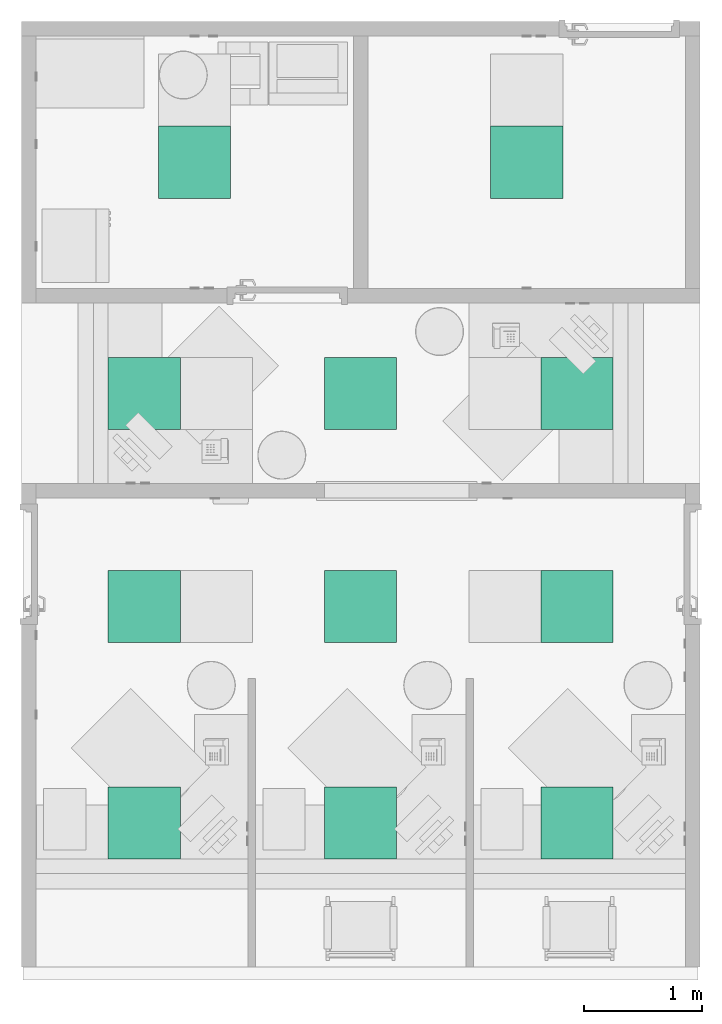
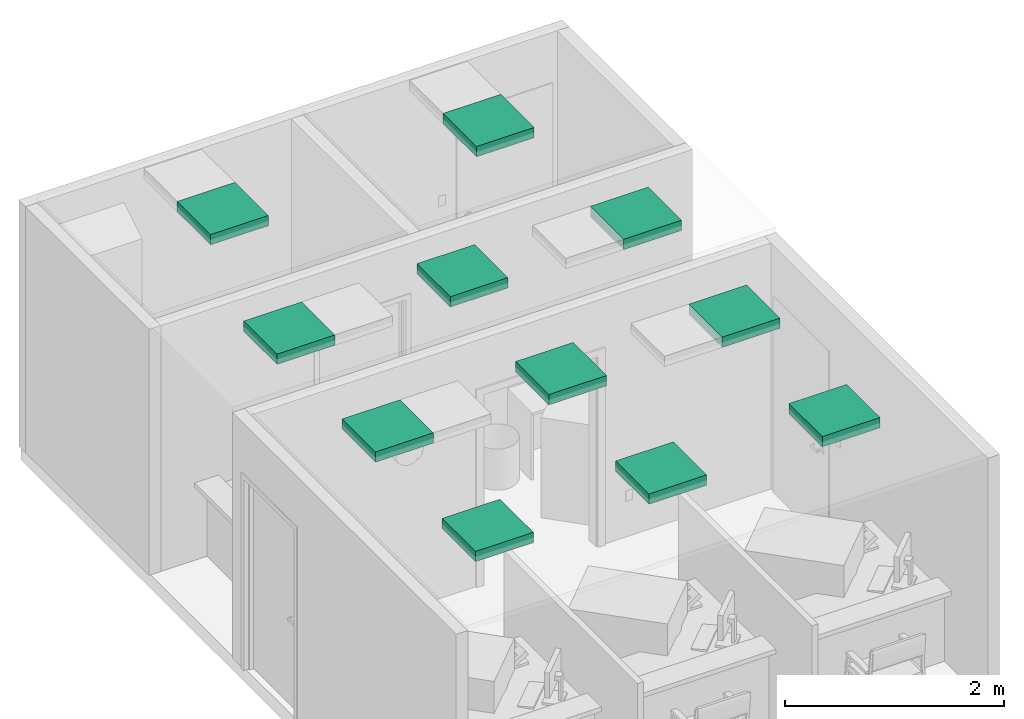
# One storey, part 6 of 20: 11 flow terminals.
"""IFC2X3 building model written with IfcOpenShell, lengths in feet."""

from ifc_helpers import new_model, entity, si_unit, converted_unit, derived_unit, direction, frame, origin, origin_2d_with_axis, place, context, subcontext, project, spatial, rectangle, extrude, source, transform, mapped, type_object, type_shapes, element, save


model = new_model("IFC2X3")

# Units and contexts
model_context = context("Model", 3, precision=0.0001, world=origin(), true_north=direction((6.12303176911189e-17, 1.0)))
body_context = subcontext(model_context, "Body", "Model", "MODEL_VIEW")
ifc_project = project(units=[converted_unit("LENGTHUNIT", "FOOT", entity("IfcRatioMeasure", 0.3048), si_unit("LENGTHUNIT", "METRE"), dimensions=[1, 0, 0, 0, 0, 0, 0]), converted_unit("AREAUNIT", "SQUARE FOOT", entity("IfcRatioMeasure", 0.09290304), si_unit("AREAUNIT", "SQUARE_METRE"), dimensions=[2, 0, 0, 0, 0, 0, 0]), converted_unit("VOLUMEUNIT", "CUBIC FOOT", entity("IfcRatioMeasure", 0.028316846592), si_unit("VOLUMEUNIT", "CUBIC_METRE"), dimensions=[3, 0, 0, 0, 0, 0, 0]), converted_unit("PLANEANGLEUNIT", "DEGREE", entity("IfcRatioMeasure", 0.0174532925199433), si_unit("PLANEANGLEUNIT", "RADIAN"), dimensions=[0, 0, 0, 0, 0, 0, 0]), si_unit("MASSUNIT", "GRAM", prefix="KILO"), derived_unit("MASSDENSITYUNIT", [(si_unit("MASSUNIT", "GRAM", prefix="KILO"), 1), (si_unit("LENGTHUNIT", "METRE"), -3)]), si_unit("TIMEUNIT", "SECOND"), si_unit("FREQUENCYUNIT", "HERTZ"), si_unit("THERMODYNAMICTEMPERATUREUNIT", "DEGREE_CELSIUS"), derived_unit("THERMALTRANSMITTANCEUNIT", [(si_unit("MASSUNIT", "GRAM", prefix="KILO"), 1), (si_unit("THERMODYNAMICTEMPERATUREUNIT", "KELVIN"), -1), (si_unit("TIMEUNIT", "SECOND"), -3)]), derived_unit("VOLUMETRICFLOWRATEUNIT", [(si_unit("LENGTHUNIT", "METRE"), 3), (si_unit("TIMEUNIT", "SECOND"), -1)]), si_unit("ELECTRICCURRENTUNIT", "AMPERE"), si_unit("ELECTRICVOLTAGEUNIT", "VOLT"), si_unit("POWERUNIT", "WATT"), si_unit("FORCEUNIT", "NEWTON"), si_unit("ILLUMINANCEUNIT", "LUX"), si_unit("LUMINOUSFLUXUNIT", "LUMEN"), si_unit("LUMINOUSINTENSITYUNIT", "CANDELA"), derived_unit("USERDEFINED", [(si_unit("MASSUNIT", "GRAM", prefix="KILO"), -1), (si_unit("LENGTHUNIT", "METRE"), -2), (si_unit("TIMEUNIT", "SECOND"), 3), (si_unit("LUMINOUSFLUXUNIT", "LUMEN"), 1)]), derived_unit("LINEARVELOCITYUNIT", [(si_unit("LENGTHUNIT", "METRE"), 1), (si_unit("TIMEUNIT", "SECOND"), -1)]), si_unit("PRESSUREUNIT", "PASCAL"), derived_unit("USERDEFINED", [(si_unit("LENGTHUNIT", "METRE"), -2), (si_unit("MASSUNIT", "GRAM", prefix="KILO"), 1), (si_unit("TIMEUNIT", "SECOND"), -2)])], contexts=[model_context])

# Site, building, storey, space
site_placement = place(None, origin())
site = spatial("IfcSite", under=ifc_project, at=site_placement, Name="Default", CompositionType="ELEMENT")
building_placement = place(site_placement, origin())
building = spatial("IfcBuilding", under=site, at=building_placement, Name="OUTPATIENT / PACT CLINIC (Ch. 265)", CompositionType="ELEMENT")
storey_placement = place(building_placement, origin())
storey = spatial("IfcBuildingStorey", under=building, at=storey_placement, Name="DATUM", CompositionType="ELEMENT", Elevation=0.0)
space_1_placement = place(storey_placement, origin())
space_1 = spatial("IfcSpace", under=storey, at=space_1_placement, Name="RCP03", CompositionType="ELEMENT", InteriorOrExteriorSpace="INTERNAL")

# Flow terminal
light_fixture_type = type_object("IfcLightFixtureType", Name="2'x2'", PredefinedType="NOTDEFINED")
shared_shape = source(origin(), body_context, "Body", "SweptSolid", [
    extrude(rectangle(XDim=2.00000000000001, YDim=2.0, at=origin_2d_with_axis()), frame((-0.0613631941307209, -0.195098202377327, 8.0), z_axis=(0.0, 0.0, 1.0), x_axis=(-1.0, 0.0, 0.0)), (0.0, 0.0, 1.0), 0.375),
])
type_shapes(light_fixture_type, [shared_shape])
flow_terminal_1_placement = place(space_1_placement, frame((59.3254766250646, -863.729741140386, 1.0)))
element("IfcFlowTerminal", 1, at=flow_terminal_1_placement, inside=space_1, type_object=light_fixture_type, Name="Troffer Light:2'x2'", ObjectType="2'x2'", context=body_context, shape_type="MappedRepresentation", body=[
    mapped(shared_shape, transform((0.0, 0.0, 0.0), scale=1.0)),
])

# Space
space_2_placement = place(storey_placement, origin())
space_2 = spatial("IfcSpace", under=storey, at=space_2_placement, CompositionType="ELEMENT", InteriorOrExteriorSpace="INTERNAL")

# Flow terminal
flow_terminal_2_placement = place(space_2_placement, frame((60.7239141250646, -845.417241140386, 1.0)))
element("IfcFlowTerminal", 2, at=flow_terminal_2_placement, inside=space_2, type_object=light_fixture_type, Name="Troffer Light:2'x2'", ObjectType="2'x2'", context=body_context, shape_type="MappedRepresentation", body=[
    mapped(shared_shape, transform((0.0, 0.0, 0.0), scale=1.0)),
])

# Space
space_3_placement = place(storey_placement, origin())
space_3 = spatial("IfcSpace", under=storey, at=space_3_placement, CompositionType="ELEMENT", InteriorOrExteriorSpace="INTERNAL")

# Flow terminals
flow_terminal_3_placement = place(space_3_placement, frame((69.9270391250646, -845.417241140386, 1.0)))
element("IfcFlowTerminal", 3, at=flow_terminal_3_placement, inside=space_3, type_object=light_fixture_type, Name="Troffer Light:2'x2'", ObjectType="2'x2'", context=body_context, shape_type="MappedRepresentation", body=[
    mapped(shared_shape, transform((0.0, 0.0, 0.0), scale=1.0)),
])
for number, where in (
    (4, (65.3254766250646, -863.729741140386, 1.0)),
    (5, (71.3254766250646, -863.729741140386, 1.0)),
    (6, (59.3254766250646, -857.729741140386, 1.0)),
    (7, (65.3254766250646, -857.729741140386, 1.0)),
    (8, (71.3254766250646, -857.729741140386, 1.0)),
):
    element("IfcFlowTerminal", number, at=place(space_1_placement, frame(where)), inside=space_1, type_object=light_fixture_type, Name="Troffer Light:2'x2'", ObjectType="2'x2'", context=body_context, shape_type="MappedRepresentation", body=[
        mapped(shared_shape, transform((0.0, 0.0, 0.0), scale=1.0)),
    ])

# Space
space_4_placement = place(storey_placement, origin())
space_4 = spatial("IfcSpace", under=storey, at=space_4_placement, CompositionType="ELEMENT", InteriorOrExteriorSpace="INTERNAL")

# Flow terminals
for number, where in (
    (9, (65.3254766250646, -851.823491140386, 1.0)),
    (10, (59.3254766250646, -851.823491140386, 1.0)),
    (11, (71.3254766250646, -851.823491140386, 1.0)),
):
    element("IfcFlowTerminal", number, at=place(space_4_placement, frame(where)), inside=space_4, type_object=light_fixture_type, Name="Troffer Light:2'x2'", ObjectType="2'x2'", context=body_context, shape_type="MappedRepresentation", body=[
        mapped(shared_shape, transform((0.0, 0.0, 0.0), scale=1.0)),
    ])

save(model, "model.ifc")
